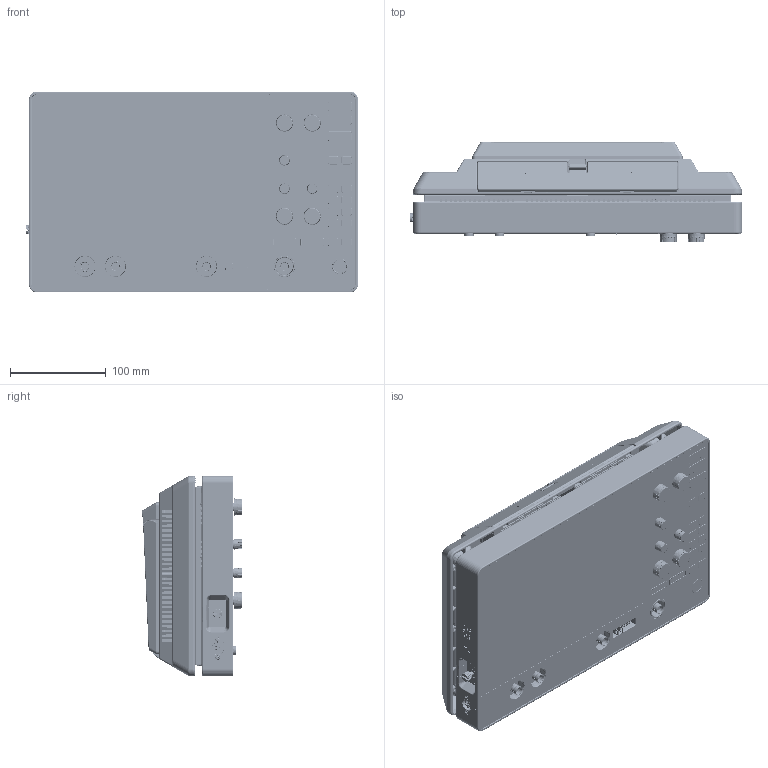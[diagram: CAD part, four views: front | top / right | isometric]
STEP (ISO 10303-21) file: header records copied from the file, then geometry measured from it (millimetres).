
FILE_DESCRIPTION((''),'2;1');
FILE_NAME('MASTER_ACC_LEXINGTON_LXN_ASM','2023-03-27T14:14:49',('mthomps2'),(''),'CREO PARAMETRIC BY PTC INC, 2022284','CREO PARAMETRIC BY PTC INC, 2022284','');
FILE_SCHEMA(('CONFIG_CONTROL_DESIGN','SHAPE_APPEARANCE_LAYERS_GROUPS'));
Products named in the file (77): COVERGLASS_MINIE_LXN; TOUCH-COVERGLASS_LXN_ASM; MODULE_TOUCH-DISPLAY_LXN_ASM; 4CH_LABEL_FRONT_IO; 2CH_LABEL_FRONT_IO; MEMBRANE_SWITCH_MINIE_LXN; MEMBRANE_SWITCH_CIRCUIT_LXN; SWITCH_DOME_8-89_17-78MM_LXN; SWITCH_DOME_8-4MM-PT28MM_TRT; MEMBRANE_SPACER_FP_LXN; MEMBRANE_SWITCH_FP_LXN_ASM; KNOB_SMALL_LXN; KNOB_SPRING_R66; KNOB_SMALL_W_SPRING_LXN_ASM; KNOB_MID_LXN; KNOB_MID_W_SPRING_LXN_ASM; GASKET_FOF_DISPLAY-GND_LXN; MODULE_FRONT_LXN_ASM; FRONT_CASE_SUPERB_HULL_LXN; SUPERB_HULL_ASSEMBLY_LXN_ASM; ADHESIVE_VHB_FERRITE_LXN; HOUSING_GROUND_LUG_LXN; FAN_45X10P3_12V_4WIRE_DELTA_RDK; CONN_1X4_CABLE_100CTR_LATCH_RDK; CRIMP_CONTACT_SNAP-IN_28-32_RDK; FAN_45X10P3_12V_4WIRE_DELTA_RDK_ASM; SCREW_MM_PH_TX_PT_M2PT5X8_; FERRITE_CABLE_SNAP-ON_LXN; CONN_2X2_4PINDINPWR_DW_F_PNL_LX; CONN_1X3_MICROFIT_DW_F_CAB_LIB; CONN_RING-TERMINAL_M3P5_LXN; CONTACT_18AWG_GLD_MINIFIT_LXN; CABLE_DCPOWER_INLET_01_LXN; CABLE_DC_PWR_STRAIGHT_01_LXN; HEATSHRINK_DC_CONNECTOR_LXN; LABLE_IEC_HARNESS_PN_LXN; HEATSHRNK_LABEL_DCPWR_01_LXN; DIODE_LEADED_AXIAL_DC-CABLE_LXN_AF0; SPLICE_CRIMP_DELPHI_5297428_LXN; HEATSHRINK_DC_PWR_DIODE_LXN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
Assembly tree (154 placements, depth 6):
  MASTER_ACC_LEXINGTON_LXN_ASM
    MASTER_LEXINGTON_LXN_ASM
      MODULE_FRONT_LXN_ASM
        MODULE_TOUCH-DISPLAY_LXN_ASM
          TOUCH-COVERGLASS_LXN_ASM
            COVERGLASS_MINIE_LXN
        4CH_LABEL_FRONT_IO
        2CH_LABEL_FRONT_IO
        MEMBRANE_SWITCH_FP_LXN_ASM
          MEMBRANE_SWITCH_MINIE_LXN
          MEMBRANE_SWITCH_CIRCUIT_LXN
          SWITCH_DOME_8-89_17-78MM_LXN  x3
          SWITCH_DOME_8-4MM-PT28MM_TRT  x15
          MEMBRANE_SPACER_FP_LXN
        KNOB_SMALL_W_SPRING_LXN_ASM  x3
          KNOB_SMALL_LXN
          KNOB_SPRING_R66
        KNOB_MID_W_SPRING_LXN_ASM  x4
          KNOB_MID_LXN
          KNOB_SPRING_R66
        GASKET_FOF_DISPLAY-GND_LXN  x3
      MODULE_CHASSIS_LXN_ASM
        SUPERB_HULL_ASSEMBLY_LXN_ASM
          FRONT_CASE_SUPERB_HULL_LXN
        ADHESIVE_VHB_FERRITE_LXN
        HOUSING_GROUND_LUG_LXN
        FAN_45X10P3_12V_4WIRE_DELTA_RDK_ASM  x2
          FAN_45X10P3_12V_4WIRE_DELTA_RDK
          CONN_1X4_CABLE_100CTR_LATCH_RDK
          CRIMP_CONTACT_SNAP-IN_28-32_RDK
        SCREW_MM_PH_TX_PT_M2PT5X8_  x2
        FERRITE_CABLE_SNAP-ON_LXN
        CABLE_DCPOWER_INLET_01_LXN_ASM
          CONN_2X2_4PINDINPWR_DW_F_PNL_LX
          CONN_1X3_MICROFIT_DW_F_CAB_LIB  x2
          CONN_RING-TERMINAL_M3P5_LXN  x2
          CONTACT_18AWG_GLD_MINIFIT_LXN  x3
          CABLE_DCPOWER_INLET_01_LXN
          CABLE_DC_PWR_STRAIGHT_01_LXN
          HEATSHRINK_DC_CONNECTOR_LXN  x4
          LABLE_IEC_HARNESS_PN_LXN
          HEATSHRNK_LABEL_DCPWR_01_LXN
          DIODE_LEADED_AXIAL_DC-CABLE_LXN_AF0
          SPLICE_CRIMP_DELPHI_5297428_LXN  x2
          HEATSHRINK_DC_PWR_DIODE_LXN
          HEATSHRINK_DC_PWR_DIODE_LXN_AF0
          DIODE_LEADED_AXIAL_DC-CABLE_LXN_AF1
          HEATSHRINK_DC_PWR_DIODE_LXN_AF1
      MODULE_REAR_LXN_ASM
        CASE_REAR_LXN_ASM
          CASE_REAR_LXN
          PEM-IUB-M4-2  x8
      MODULE_PCB_MAIN_LXN_ASM
        PCB_MAIN_LXN_ASM
          CONN_BNC_LXN  x4
          TRANSFORMER_G-BIT_RJ45_EMI_LIB
          CONN_1X4_USB_TH_F_RA_B_LIB
          CONN_1X4_USB_RA_DUAL_PBFREE_LIB
          CONN_PROBE_COMP_LXN  x2
          CONN_2X4_SQPIN_TH_M_STR_720_LIB
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Bounding box: 347.14 x 104.7 x 210 mm (x, y, z)
Volume: 1252035.8 mm3; surface area: 1195534.1 mm2
Topology: 149 solids, 153 shells, 30723 faces, 80296 edges, 50114 vertices
Faces by surface type: plane 10994, cylinder 8832, bspline 5509, cone 2411, torus 1816, sphere 738, extrusion 423
Entity records: 1198419 total; most frequent: CARTESIAN_POINT 403149, ORIENTED_EDGE 113521, DIRECTION 95962, PRESENTATION_STYLE_ASSIGNMENT 70391, STYLED_ITEM 70364, EDGE_CURVE 56797, CURVE_STYLE 52156, VERTEX_POINT 35153
